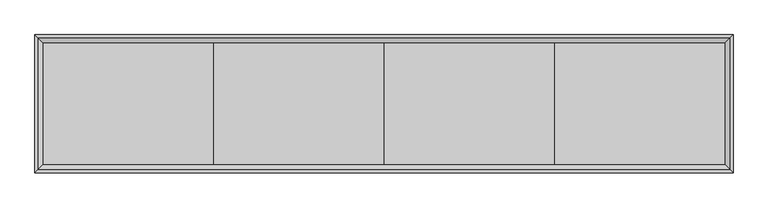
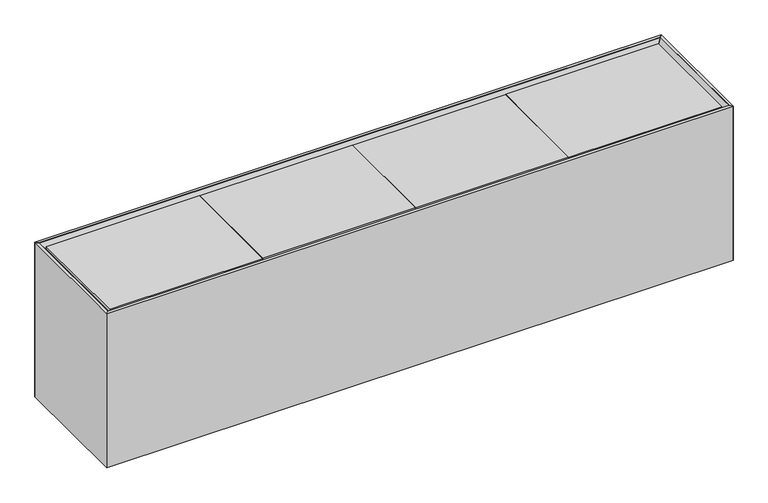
"""IFC4 building model written with IfcOpenShell, lengths in millimetres: proxy geometry, AERO^STANDARD CREDENZA_19H WALL HUNG-PARTS SOLID."""

from ifc_helpers import new_model, si_unit, frame, origin, place, context, project, spatial, polyline, outline, extrude, faceted_brep, source, transform, mapped, element, save


def generic_models_41df0317(model_context):
    return source(origin(), model_context, "Body", "SolidModel", [
        faceted_brep([(38.1, 38.1, 604.8375), (9.525, 9.525, 633.4125), (2428.875, 9.525, 633.4125), (2400.3, 38.1, 604.8375), (9.525, 9.525, 635.0), (2428.875, 9.525, 635.0), (0.0, 0.0, 635.0), (2438.4, 0.0, 635.0), (38.1, 38.1, 0.0), (0.0, 0.0, 0.0), (2438.4, 0.0, 0.0), (2400.3, 38.1, 0.0)], [[[0, 1, 2, 3]], [[1, 4, 5, 2]], [[5, 4, 6, 7]], [[4, 1, 0, 8, 9, 6]], [[2, 5, 7, 10, 11, 3]], [[9, 10, 7, 6]], [[0, 3, 11, 8]], [[8, 11, 10, 9]]]),
        extrude(outline(polyline([(1816.2984375, 454.025), (2409.825, 454.025), (2409.825, 28.575), (1816.2984375, 28.575), (1816.2984375, 454.025)])), frame((0.0, 0.0, 606.425), z_axis=(0.0, 0.0, 1.0), x_axis=(1.0, 0.0, 0.0)), (0.0, 0.0, 1.0), 19.05),
        faceted_brep([(2438.4, 0.0, 0.0), (2197.1, 241.3, 0.0), (2438.4, 482.6, 0.0), (2438.4, 0.0, 635.0), (2428.875, 9.525, 635.0), (2428.875, 9.525, 633.4125), (2197.1, 241.3, 401.6375), (2428.875, 473.075, 633.4125), (2428.875, 473.075, 635.0), (2438.4, 482.6, 635.0)], [[[0, 1, 2]], [[1, 0, 3, 4, 5, 6]], [[6, 5, 7]], [[5, 4, 8, 7]], [[8, 4, 3, 9]], [[7, 8, 9, 2, 1, 6]], [[0, 2, 9, 3]]]),
        extrude(outline(polyline([(38.1, 444.5), (2400.3, 444.5), (2400.3, 38.1), (38.1, 38.1), (38.1, 444.5)])), frame((0.0, 0.0, 19.05), z_axis=(0.0, 0.0, 1.0), x_axis=(1.0, 0.0, 0.0)), (0.0, 0.0, 1.0), 19.05),
        extrude(outline(polyline([(622.1015625, 28.575), (28.575, 28.575), (28.575, 454.025), (622.1015625, 454.025), (622.1015625, 28.575)])), frame((0.0, 0.0, 606.425), z_axis=(0.0, 0.0, 1.0), x_axis=(1.0, 0.0, 0.0)), (0.0, 0.0, 1.0), 19.05),
        extrude(outline(polyline([(1813.9171875, 454.025), (1813.9171875, 28.575), (1220.390625, 28.575), (1220.390625, 454.025), (1813.9171875, 454.025)])), frame((0.0, 0.0, 606.425), z_axis=(0.0, 0.0, 1.0), x_axis=(1.0, 0.0, 0.0)), (0.0, 0.0, 1.0), 19.05),
        faceted_brep([(2428.875, 473.075, 633.4125), (2428.875, 473.075, 635.0), (9.525, 473.075, 635.0), (9.525, 473.075, 633.4125), (2400.3, 444.5, 604.8375), (38.1, 444.5, 604.8375), (2400.3, 444.5, 0.0), (2438.4, 482.6, 0.0), (2438.4, 482.6, 635.0), (38.1, 444.5, 0.0), (0.0, 482.6, 635.0), (0.0, 482.6, 0.0)], [[[0, 1, 2, 3]], [[4, 0, 3, 5]], [[1, 0, 4, 6, 7, 8]], [[4, 5, 9, 6]], [[3, 2, 10, 11, 9, 5]], [[7, 11, 10, 8]], [[2, 1, 8, 10]], [[6, 9, 11, 7]]]),
        extrude(outline(polyline([(1806.575, 444.5), (1825.625, 444.5), (1825.625, 38.1), (1806.575, 38.1), (1806.575, 444.5)])), frame((0.0, 0.0, 38.1), z_axis=(0.0, 0.0, 1.0), x_axis=(1.0, 0.0, 0.0)), (0.0, 0.0, 1.0), 560.3875),
        extrude(outline(polyline([(1218.009375, 454.025), (1218.009375, 28.575), (624.4828125, 28.575), (624.4828125, 454.025), (1218.009375, 454.025)])), frame((0.0, 0.0, 606.425), z_axis=(0.0, 0.0, 1.0), x_axis=(1.0, 0.0, 0.0)), (0.0, 0.0, 1.0), 19.05),
        extrude(outline(polyline([(631.825, 38.1), (612.775, 38.1), (612.775, 444.5), (631.825, 444.5), (631.825, 38.1)])), frame((0.0, 0.0, 38.1), z_axis=(0.0, 0.0, 1.0), x_axis=(1.0, 0.0, 0.0)), (0.0, 0.0, 1.0), 560.3875),
        extrude(outline(polyline([(1228.725, 38.1), (1209.675, 38.1), (1209.675, 444.5), (1228.725, 444.5), (1228.725, 38.1)])), frame((0.0, 0.0, 38.1), z_axis=(0.0, 0.0, 1.0), x_axis=(1.0, 0.0, 0.0)), (0.0, 0.0, 1.0), 560.3875),
        faceted_brep([(0.0, 482.6, 0.0), (241.3, 241.3, 0.0), (0.0, 0.0, 0.0), (0.0, 482.6, 635.0), (9.525, 473.075, 635.0), (9.525, 473.075, 633.4125), (241.3, 241.3, 401.6375), (9.525, 9.525, 633.4125), (9.525, 9.525, 635.0), (0.0, 0.0, 635.0)], [[[0, 1, 2]], [[1, 0, 3, 4, 5, 6]], [[6, 5, 7]], [[5, 4, 8, 7]], [[8, 4, 3, 9]], [[0, 2, 9, 3]], [[7, 8, 9, 2, 1, 6]]]),
    ])


if __name__ == "__main__":
    model = new_model("IFC4")
    model_context = context("Model", 3, world=origin())
    ifc_project = project(units=[si_unit("LENGTHUNIT", "METRE", prefix="MILLI")], contexts=[model_context])
    site = spatial("IfcSite", under=ifc_project)
    building = spatial("IfcBuilding", under=site)
    placement = place(None, origin())
    generic_models_shape = generic_models_41df0317(model_context)
    element("IfcBuildingElementProxy", 1, Name="AERO^STANDARD CREDENZA_19H WALL HUNG-PARTS SOLID", ObjectType="AERO^STANDARD CREDENZA_19H WALL HUNG-PARTS SOLID", at=placement, inside=building, context=model_context, shape_type="MappedRepresentation", body=[
        mapped(generic_models_shape, transform((0.0, 0.0, 0.0), x_axis=(1.0, 0.0, 0.0), y_axis=(0.0, 1.0, 0.0), z_axis=(0.0, 0.0, 1.0))),
    ])
    save(model, "model.ifc")
